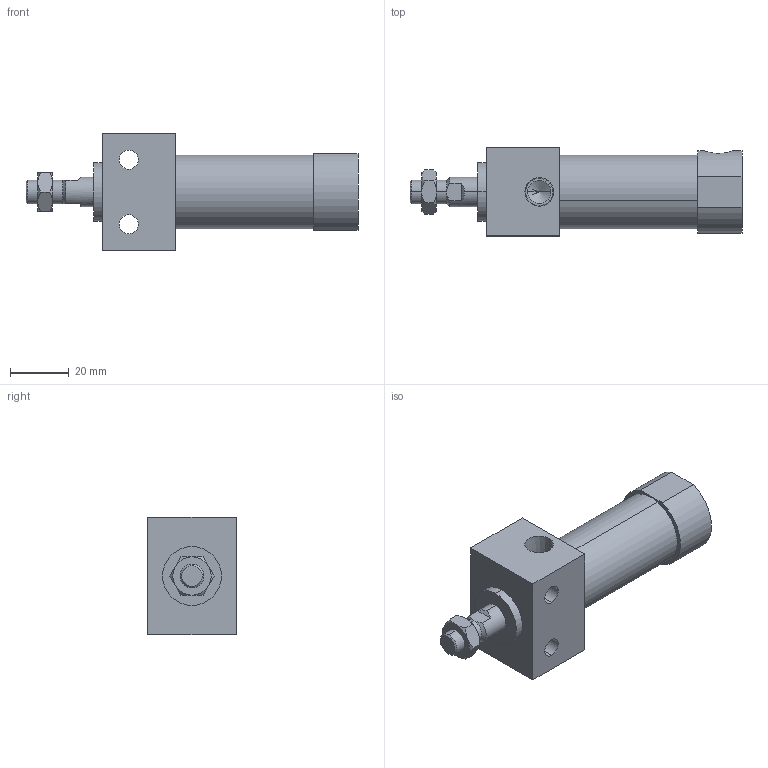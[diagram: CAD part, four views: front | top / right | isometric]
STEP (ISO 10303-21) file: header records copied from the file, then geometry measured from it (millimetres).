
FILE_DESCRIPTION (( 'STEP AP203' ), '1' );
FILE_NAME ('JGES2-20-15.STEP', '2016-04-20T07:06:13', ( '' ), ( '' ), 'SwSTEP 2.0', 'SolidWorks 2014', '' );
FILE_SCHEMA (( 'CONFIG_CONTROL_DESIGN' ));
Length unit declared in the file: millimetre
Products named in the file (5): 20-15; M8x1.25-5mm; JGES2-20-15; JGES2-20B; JGES2-20A
Assembly tree (4 placements, depth 2):
  JGES2-20-15
    JGES2-20B
    20-15
    JGES2-20A
    M8x1.25-5mm
Bounding box: 113 x 30 x 40 mm (x, y, z)
Volume: 59717 mm3; surface area: 16719.9 mm2
Topology: 4 solids, 4 shells, 85 faces, 186 edges, 113 vertices
Faces by surface type: plane 31, cylinder 26, cone 16, torus 12
Entity records: 3044 total; most frequent: CARTESIAN_POINT 676, DIRECTION 410, ORIENTED_EDGE 360, EDGE_CURVE 180, AXIS2_PLACEMENT_3D 170, VERTEX_POINT 113, EDGE_LOOP 101, FACE_OUTER_BOUND 85
